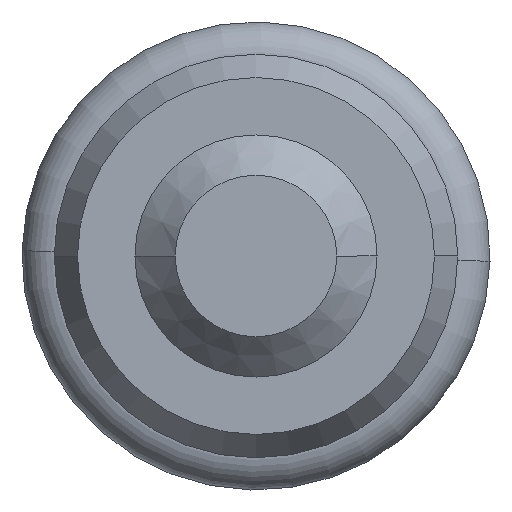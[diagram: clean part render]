
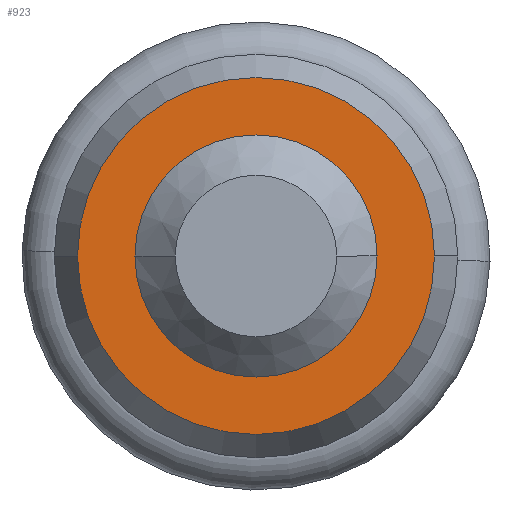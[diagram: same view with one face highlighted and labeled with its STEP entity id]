
A CAD part, front view. The second image highlights one B-rep face of the part: STEP entity #923.
In plain terms, the highlighted planar face has unit normal (0, -1, 0).
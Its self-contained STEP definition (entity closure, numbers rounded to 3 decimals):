
#12 = ORIENTED_EDGE ( 'NONE', *, *, #197, .T. ) ;
#49 = DIRECTION ( 'NONE',  ( 0., -1., 0. ) ) ;
#56 = VERTEX_POINT ( 'NONE', #468 ) ;
#66 = DIRECTION ( 'NONE',  ( -1., 0., 0. ) ) ;
#172 = VERTEX_POINT ( 'NONE', #916 ) ;
#197 = EDGE_CURVE ( 'NONE', #377, #217, #964, .T. ) ;
#209 = AXIS2_PLACEMENT_3D ( 'NONE', #398, #49, #735 ) ;
#215 = EDGE_LOOP ( 'NONE', ( #846, #12 ) ) ;
#217 = VERTEX_POINT ( 'NONE', #665 ) ;
#231 = AXIS2_PLACEMENT_3D ( 'NONE', #1097, #932, #66 ) ;
#272 = CARTESIAN_POINT ( 'NONE',  ( 0., -43., 0. ) ) ;
#330 = EDGE_CURVE ( 'NONE', #217, #377, #1103, .T. ) ;
#332 = CIRCLE ( 'NONE', #499, 3. ) ;
#353 = DIRECTION ( 'NONE',  ( 0., 1., 0. ) ) ;
#377 = VERTEX_POINT ( 'NONE', #676 ) ;
#398 = CARTESIAN_POINT ( 'NONE',  ( 0., -43., 0. ) ) ;
#432 = CARTESIAN_POINT ( 'NONE',  ( 0., -43., 0. ) ) ;
#434 = EDGE_LOOP ( 'NONE', ( #1054, #714 ) ) ;
#468 = CARTESIAN_POINT ( 'NONE',  ( 3., -43., 0. ) ) ;
#499 = AXIS2_PLACEMENT_3D ( 'NONE', #272, #1048, #870 ) ;
#543 = FACE_BOUND ( 'NONE', #434, .T. ) ;
#665 = CARTESIAN_POINT ( 'NONE',  ( -4.423, -43., 0. ) ) ;
#676 = CARTESIAN_POINT ( 'NONE',  ( 4.423, -43., 0. ) ) ;
#698 = FACE_OUTER_BOUND ( 'NONE', #215, .T. ) ;
#714 = ORIENTED_EDGE ( 'NONE', *, *, #958, .T. ) ;
#735 = DIRECTION ( 'NONE',  ( -1., 0., 0. ) ) ;
#754 = AXIS2_PLACEMENT_3D ( 'NONE', #432, #353, #957 ) ;
#844 = DIRECTION ( 'NONE',  ( 0., 1., 0. ) ) ;
#846 = ORIENTED_EDGE ( 'NONE', *, *, #330, .T. ) ;
#870 = DIRECTION ( 'NONE',  ( -1., 0., 0. ) ) ;
#916 = CARTESIAN_POINT ( 'NONE',  ( -3., -43., 0. ) ) ;
#923 = ADVANCED_FACE ( 'Faccia1', ( #698, #543 ), #1030, .F. ) ;
#932 = DIRECTION ( 'NONE',  ( 0., -1., 0. ) ) ;
#957 = DIRECTION ( 'NONE',  ( -1., 0., 0. ) ) ;
#958 = EDGE_CURVE ( 'NONE', #56, #172, #332, .T. ) ;
#964 = CIRCLE ( 'NONE', #209, 4.423 ) ;
#978 = EDGE_CURVE ( 'NONE', #172, #56, #1011, .T. ) ;
#1011 = CIRCLE ( 'NONE', #754, 3. ) ;
#1017 = DIRECTION ( 'NONE',  ( -1., 0., 0. ) ) ;
#1030 = PLANE ( 'NONE',  #1094 ) ;
#1048 = DIRECTION ( 'NONE',  ( 0., 1., 0. ) ) ;
#1054 = ORIENTED_EDGE ( 'NONE', *, *, #978, .T. ) ;
#1094 = AXIS2_PLACEMENT_3D ( 'NONE', #1104, #844, #1017 ) ;
#1097 = CARTESIAN_POINT ( 'NONE',  ( 0., -43., 0. ) ) ;
#1103 = CIRCLE ( 'NONE', #231, 4.423 ) ;
#1104 = CARTESIAN_POINT ( 'NONE',  ( 3., -43., 0. ) ) ;
